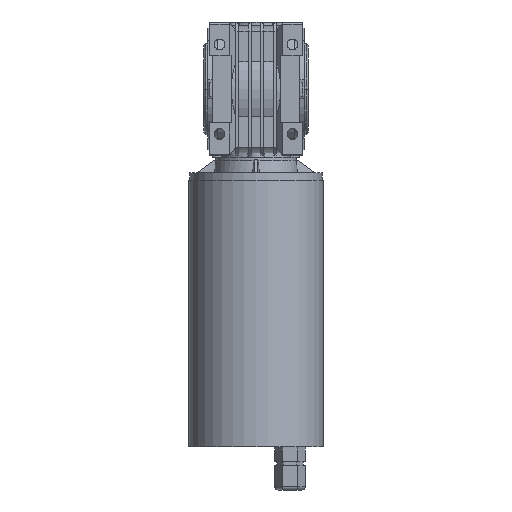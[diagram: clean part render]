
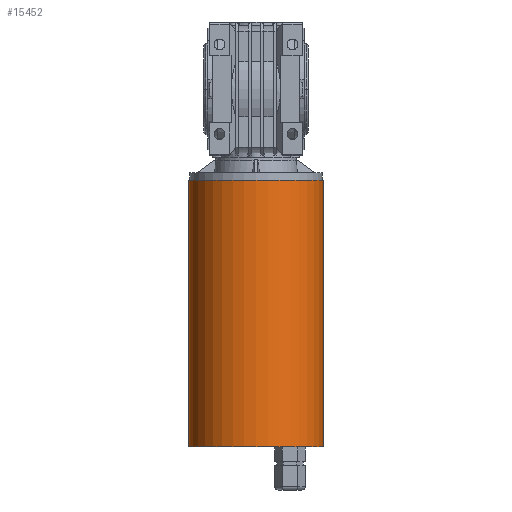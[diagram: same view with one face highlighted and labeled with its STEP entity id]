
A CAD part, front view. The second image highlights one B-rep face of the part: STEP entity #15452.
In plain terms, the highlighted cylindrical face has radius 40.5 mm (diameter 81 mm), a partial arc.
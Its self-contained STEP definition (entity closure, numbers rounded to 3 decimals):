
#410 = EDGE_CURVE ( 'NONE', #5826, #6628, #20159, .T. ) ;
#414 = LINE ( 'NONE', #8932, #7697 ) ;
#977 = CARTESIAN_POINT ( 'NONE',  ( -40.5, 0., 0. ) ) ;
#3787 = CARTESIAN_POINT ( 'NONE',  ( 0., 0., 0. ) ) ;
#4330 = CYLINDRICAL_SURFACE ( 'NONE', #13672, 40.5 ) ;
#5051 = DIRECTION ( 'NONE',  ( 0., 0., 1. ) ) ;
#5718 = AXIS2_PLACEMENT_3D ( 'NONE', #9527, #5051, #9665 ) ;
#5826 = VERTEX_POINT ( 'NONE', #6121 ) ;
#6121 = CARTESIAN_POINT ( 'NONE',  ( -40.5, 0., 0. ) ) ;
#6628 = VERTEX_POINT ( 'NONE', #11153 ) ;
#7186 = ORIENTED_EDGE ( 'NONE', *, *, #24237, .F. ) ;
#7678 = DIRECTION ( 'NONE',  ( 0., 0., -1. ) ) ;
#7697 = VECTOR ( 'NONE', #17476, 1000. ) ;
#8128 = CARTESIAN_POINT ( 'NONE',  ( 40.5, 0., -160.5 ) ) ;
#8536 = ORIENTED_EDGE ( 'NONE', *, *, #25569, .F. ) ;
#8932 = CARTESIAN_POINT ( 'NONE',  ( 40.5, 0., 0. ) ) ;
#9337 = EDGE_LOOP ( 'NONE', ( #7186, #14034, #18372, #8536 ) ) ;
#9527 = CARTESIAN_POINT ( 'NONE',  ( 0., 0., -160.5 ) ) ;
#9665 = DIRECTION ( 'NONE',  ( 1., 0., 0. ) ) ;
#10474 = DIRECTION ( 'NONE',  ( 0., 0., -1. ) ) ;
#10753 = VERTEX_POINT ( 'NONE', #8128 ) ;
#11153 = CARTESIAN_POINT ( 'NONE',  ( -40.5, 0., -160.5 ) ) ;
#11573 = DIRECTION ( 'NONE',  ( 0., 0., 1. ) ) ;
#13006 = CIRCLE ( 'NONE', #23313, 40.5 ) ;
#13525 = CARTESIAN_POINT ( 'NONE',  ( 0., 0., 0. ) ) ;
#13672 = AXIS2_PLACEMENT_3D ( 'NONE', #3787, #10474, #18894 ) ;
#14034 = ORIENTED_EDGE ( 'NONE', *, *, #410, .T. ) ;
#14203 = CIRCLE ( 'NONE', #5718, 40.5 ) ;
#14544 = FACE_OUTER_BOUND ( 'NONE', #9337, .T. ) ;
#15452 = ADVANCED_FACE ( 'NONE', ( #14544 ), #4330, .T. ) ;
#15841 = VERTEX_POINT ( 'NONE', #16623 ) ;
#16623 = CARTESIAN_POINT ( 'NONE',  ( 40.5, 0., 0. ) ) ;
#17476 = DIRECTION ( 'NONE',  ( 0., 0., -1. ) ) ;
#17880 = DIRECTION ( 'NONE',  ( 1., 0., 0. ) ) ;
#18286 = EDGE_CURVE ( 'NONE', #6628, #10753, #14203, .T. ) ;
#18372 = ORIENTED_EDGE ( 'NONE', *, *, #18286, .T. ) ;
#18894 = DIRECTION ( 'NONE',  ( 1., 0., 0. ) ) ;
#20159 = LINE ( 'NONE', #977, #24595 ) ;
#23313 = AXIS2_PLACEMENT_3D ( 'NONE', #13525, #11573, #17880 ) ;
#24237 = EDGE_CURVE ( 'NONE', #5826, #15841, #13006, .T. ) ;
#24595 = VECTOR ( 'NONE', #7678, 1000. ) ;
#25569 = EDGE_CURVE ( 'NONE', #15841, #10753, #414, .T. ) ;
